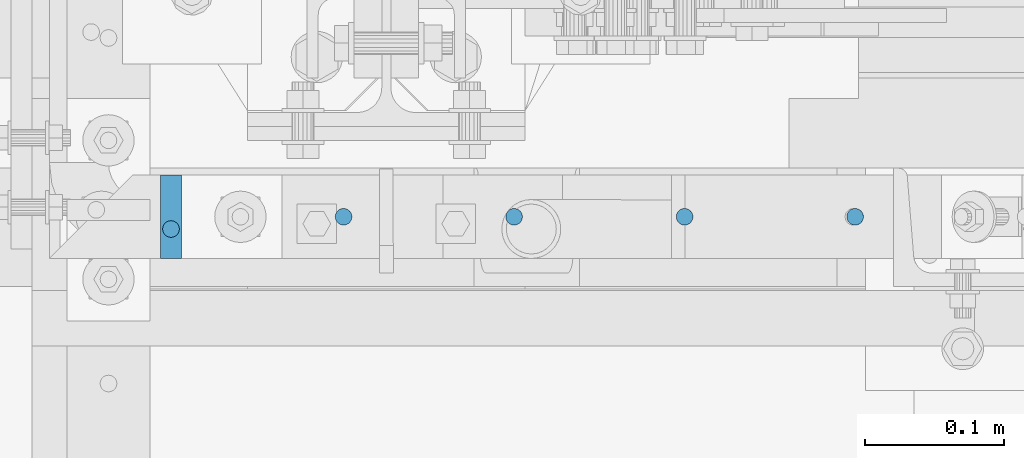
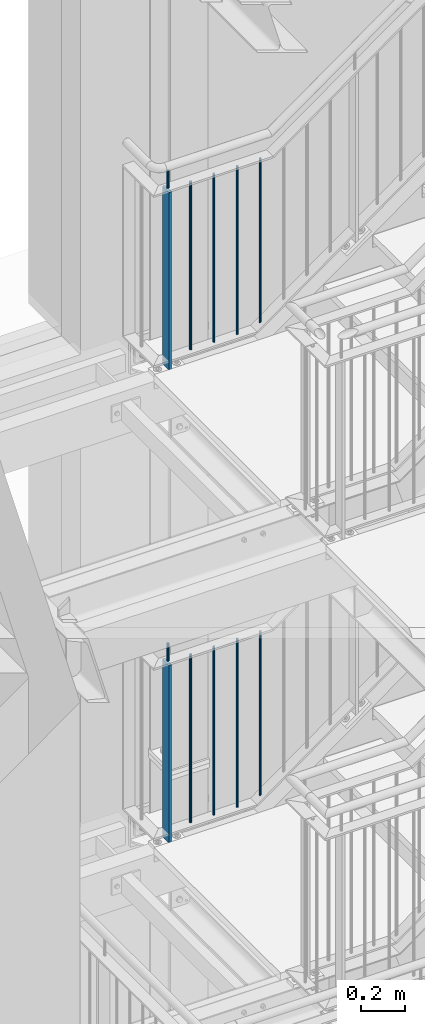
# One storey, part 71 of 821: 12 columns.
"""IFC2X3 building model written with IfcOpenShell, lengths in millimetres."""

import ifcopenshell
import ifcopenshell.guid

model = None  # the IFC model being written
_history = None  # IfcOwnerHistory: only IFC2X3 demands one
_inside = {}  # id of a spatial element -> (the spatial element, [elements in it])
_under = {}  # id of a project, library or spatial element -> (it, [spatial elements below it])
_declared = {}  # id of a project -> (the project, [libraries it declares])
_typed = {}  # id of a type object -> (the type object, [elements of that type])
_made_of = {}  # id of a material, layer set ... -> (it, [elements and type objects made of it])


def new_model(schema):
    """Start an empty IFC model of exactly this schema.

    Asked for "IFC4X3", IfcOpenShell would pick the latest addendum, in which some entities
    have other attributes; the version numbers below select the first issue.
    IFC2X3 requires an IfcOwnerHistory on every rooted entity: one is made here for all.
    """
    global model, _history
    if schema == "IFC4X3":
        model = ifcopenshell.file(schema_version=(4, 3, 0, 0))
    else:
        model = ifcopenshell.file(schema=schema)
    _inside.clear()
    _under.clear()
    _declared.clear()
    _typed.clear()
    _made_of.clear()
    _history = None
    if model.schema == "IFC2X3":
        org = make("IfcOrganization", Name="unknown")
        user = make(
            "IfcPersonAndOrganization",
            ThePerson=make("IfcPerson", FamilyName="unknown"),
            TheOrganization=org,
        )
        app = make(
            "IfcApplication",
            ApplicationDeveloper=org,
            Version="unknown",
            ApplicationFullName="unknown",
            ApplicationIdentifier="unknown",
        )
        _history = make(
            "IfcOwnerHistory",
            OwningUser=user,
            OwningApplication=app,
            ChangeAction="ADDED",
            CreationDate=0,
        )
    return model


def make(cls, **values):
    """One entity of the class cls with the attributes given. An attribute that is None is left unset."""
    return model.create_entity(
        cls, **{name: value for name, value in values.items() if value is not None}
    )


def entity(cls, *values):
    """Any entity or typed value of the class cls, its attributes in the order of the schema. None: left unset."""
    e = model.create_entity(cls)
    for i, value in enumerate(values):
        if value is not None:
            e[i] = value
    return e


def rooted(cls, **values):
    """An entity with a GlobalId (a new one), such as an element, a storey or a relation."""
    return make(cls, GlobalId=ifcopenshell.guid.new(), OwnerHistory=_history, **values)


def si_unit(unit_type, name, prefix=None):
    """IfcSIUnit, for example si_unit("LENGTHUNIT", "METRE", prefix="MILLI")."""
    return make("IfcSIUnit", UnitType=unit_type, Prefix=prefix, Name=name)


def converted_unit(unit_type, name, factor, base, dimensions=None, offset=None):
    """IfcConversionBasedUnit, such as the inch: factor (a typed value) times the base unit."""
    return make(
        "IfcConversionBasedUnit"
        if offset is None
        else "IfcConversionBasedUnitWithOffset",
        ConversionOffset=offset,
        Dimensions=None
        if dimensions is None
        else entity("IfcDimensionalExponents", *dimensions),
        UnitType=unit_type,
        Name=name,
        ConversionFactor=make(
            "IfcMeasureWithUnit", ValueComponent=factor, UnitComponent=base
        ),
    )


def assignment(units):
    """IfcUnitAssignment: the units of a project."""
    return None if units is None else make("IfcUnitAssignment", Units=units)


def point(xyz):
    """IfcCartesianPoint."""
    return None if xyz is None else make("IfcCartesianPoint", Coordinates=xyz)


def direction(xyz):
    """IfcDirection."""
    return None if xyz is None else make("IfcDirection", DirectionRatios=xyz)


def frame(location, z_axis=None, x_axis=None):
    """IfcAxis2Placement3D, a coordinate frame: its origin and axes. An axis left out is left unset."""
    return make(
        "IfcAxis2Placement3D",
        Location=point(location),
        Axis=direction(z_axis),
        RefDirection=direction(x_axis),
    )


def frame_2d(location, x_axis=None):
    """IfcAxis2Placement2D, a coordinate frame in the plane: its origin and x axis."""
    return make(
        "IfcAxis2Placement2D", Location=point(location), RefDirection=direction(x_axis)
    )


def origin():
    """The frame at (0, 0, 0) with its axes left unset."""
    return frame((0.0, 0.0, 0.0))


def origin_with_axes():
    """The frame at (0, 0, 0) with the z axis (0, 0, 1) and the x axis (1, 0, 0) written out."""
    return frame((0.0, 0.0, 0.0), z_axis=(0.0, 0.0, 1.0), x_axis=(1.0, 0.0, 0.0))


def origin_2d():
    """The frame at (0, 0) in the plane with its x axis left unset."""
    return frame_2d((0.0, 0.0))


def place(relative_to, where):
    """IfcLocalPlacement: puts the frame where relative to a parent placement (None: the world)."""
    return make(
        "IfcLocalPlacement", PlacementRelTo=relative_to, RelativePlacement=where
    )


def context(
    kind, dimensions, precision=None, world=None, true_north=None, identifier=None
):
    """IfcGeometricRepresentationContext, for example the 3D "Model" context."""
    return make(
        "IfcGeometricRepresentationContext",
        ContextIdentifier=identifier,
        ContextType=kind,
        CoordinateSpaceDimension=dimensions,
        Precision=precision,
        WorldCoordinateSystem=world,
        TrueNorth=true_north,
    )


def project(units=None, contexts=None):
    """IfcProject with its units and contexts."""
    return rooted(
        "IfcProject",
        Name="project",
        RepresentationContexts=contexts,
        UnitsInContext=assignment(units),
    )


def spatial(cls, under=None, at=None, **own):
    """A site, building, storey or space (cls), placed at a placement, below another one or the project."""
    s = rooted(cls, ObjectPlacement=at, **own)
    if under is not None:
        _under.setdefault(under.id(), (under, []))[1].append(s)
    return s


def profile(cls, at=None, kind="AREA", **sizes):
    """A parametric profile (cls). Its sizes go by their IFC names, for example OverallWidth=200.0."""
    return make(cls, ProfileType=kind, Position=at, **sizes)


def rectangle(**sizes):
    """IfcRectangleProfileDef."""
    return profile("IfcRectangleProfileDef", **sizes)


def circle(**sizes):
    """IfcCircleProfileDef."""
    return profile("IfcCircleProfileDef", **sizes)


def extrude(swept, where, along, depth):
    """IfcExtrudedAreaSolid: the profile swept, set in the frame where, extruded along a direction by depth."""
    return make(
        "IfcExtrudedAreaSolid",
        SweptArea=swept,
        Position=where,
        ExtrudedDirection=direction(along),
        Depth=depth,
    )


def clip(a, b, op="DIFFERENCE"):
    """IfcBooleanClippingResult: the solid a cut by the half space b."""
    return make(
        "IfcBooleanClippingResult", Operator=op, FirstOperand=a, SecondOperand=b
    )


def halfspace(plane, agree):
    """IfcHalfSpaceSolid: all space on one side of the plane z = 0 of the frame plane."""
    return make(
        "IfcHalfSpaceSolid",
        BaseSurface=make("IfcPlane", Position=plane),
        AgreementFlag=agree,
    )


def shape(context_of_items, identifier, shape_type, items):
    """IfcShapeRepresentation: the items that make up one representation, for example the "Body"."""
    return make(
        "IfcShapeRepresentation",
        ContextOfItems=context_of_items,
        RepresentationIdentifier=identifier,
        RepresentationType=shape_type,
        Items=items,
    )


def material(Name=None, Category=None):
    """IfcMaterial."""
    return make("IfcMaterial", Name=Name, Category=Category)


def made_of(thing, what):
    """Note that an element or type object is made of a material, layer set ...; save() writes the relation."""
    if what is not None:
        _made_of.setdefault(what.id(), (what, []))[1].append(thing)
    return thing


def element(
    cls,
    number,
    at=None,
    inside=None,
    cuts=None,
    type_object=None,
    material=None,
    context=None,
    identifier="Body",
    shape_type=None,
    held_by="IfcProductDefinitionShape",
    body=None,
    shapes=None,
    **own,
):
    """One element of the class cls, such as IfcWall. Its Tag is "e" and its number.

    at: its placement. inside: the storey or other place that contains it. cuts: it is an
    opening in that element (IfcRelVoidsElement). A single representation is given by context,
    identifier, shape_type and body (its items); several are given by shapes. held_by: the class
    of the entity that holds the representations. save() writes the other relations.
    """
    e = rooted(cls, Tag="e%d" % number, ObjectPlacement=at, **own)
    if body is not None:
        shapes = [shape(context, identifier, shape_type, body)]
    if shapes is not None:
        e.Representation = make(held_by, Representations=shapes)
    if inside is not None:
        _inside.setdefault(inside.id(), (inside, []))[1].append(e)
    if cuts is not None:
        rooted(
            "IfcRelVoidsElement", RelatingBuildingElement=cuts, RelatedOpeningElement=e
        )
    if type_object is not None:
        _typed.setdefault(type_object.id(), (type_object, []))[1].append(e)
    return made_of(e, material)


def aggregate(whole, parts):
    """IfcRelAggregates: a whole, such as a stair, and the parts it consists of."""
    return rooted("IfcRelAggregates", RelatingObject=whole, RelatedObjects=parts)


def save(model, path):
    """Write the relations noted so far, then the file.

    IfcRelAggregates (storeys below a building ...), IfcRelContainedInSpatialStructure (elements
    in a storey), IfcRelDefinesByType, IfcRelAssociatesMaterial and IfcRelDeclares: one each for
    every whole, place, type object, material and project.
    """
    for whole, parts in _under.values():
        aggregate(whole, parts)
    for where, things in _inside.values():
        rooted(
            "IfcRelContainedInSpatialStructure",
            RelatedElements=things,
            RelatingStructure=where,
        )
    for kind, things in _typed.values():
        rooted("IfcRelDefinesByType", RelatedObjects=things, RelatingType=kind)
    for what, things in _made_of.values():
        rooted("IfcRelAssociatesMaterial", RelatedObjects=things, RelatingMaterial=what)
    for by, libraries in _declared.values():
        rooted("IfcRelDeclares", RelatingContext=by, RelatedDefinitions=libraries)
    model.write(path)


model = new_model("IFC2X3")

# Units and contexts
model_context = context("Model", 3, precision=1e-09, world=origin_with_axes())
ifc_project = project(units=[si_unit("LENGTHUNIT", "METRE", prefix="MILLI"), si_unit("AREAUNIT", "SQUARE_METRE"), si_unit("VOLUMEUNIT", "CUBIC_METRE"), converted_unit("PLANEANGLEUNIT", "DEGREE", entity("IfcPlaneAngleMeasure", 0.01745329), si_unit("PLANEANGLEUNIT", "RADIAN"), dimensions=[0, 0, 0, 0, 0, 0, 0])], contexts=[model_context])

# Site, building, storey
site_placement = place(None, origin_with_axes())
site = spatial("IfcSite", under=ifc_project, at=site_placement, Name="Cnopf'sche Kinderklinik", CompositionType="ELEMENT")
building_placement = place(site_placement, origin_with_axes())
building = spatial("IfcBuilding", under=site, at=building_placement, Name="Struktur 1", CompositionType="ELEMENT")
storey_placement = place(building_placement, origin_with_axes())
storey = spatial("IfcBuildingStorey", under=building, at=storey_placement, Name="Default Storey", CompositionType="ELEMENT", Elevation=0.0)

# Columns
ifc_material = material(Name="S235JR")
column_1_placement = place(None, frame((4701.713402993, 7356.736971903, 13618.723292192), z_axis=(0.0, 0.0, 1.0), x_axis=(1.0, 0.0, 0.0)))
element("IfcColumn", 1, at=column_1_placement, inside=storey, material=ifc_material, Name="Railing_Post_Landing#0", ObjectType="Railing_Post_Landing#0", context=model_context, shape_type="Clipping", body=[
    clip(clip(extrude(rectangle(XDim=15.0, YDim=60.0, at=origin_2d()), origin(), (0.0, 0.0, -1.0), 1070.646584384), halfspace(frame((-4701.713402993, -7356.736971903, -1019.722292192), z_axis=(0.0, 0.0, 1.0), x_axis=(1.0, 0.0, 0.0)), True)), halfspace(frame((-4701.713402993, -7356.736971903, -30.924292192), z_axis=(0.0, 0.0, -1.0), x_axis=(-1.0, 0.0, 0.0)), True)),
])
column_2_placement = place(None, frame((4825.963402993, 7356.736971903, 13601.285281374), z_axis=(0.0, 0.0, 1.0), x_axis=(1.0, 0.0, 0.0)))
element("IfcColumn", 2, at=column_2_placement, inside=storey, material=ifc_material, Name="Railing_Picket_Landing#0", ObjectType="Railing_Picket_Landing#0", context=model_context, shape_type="Clipping", body=[
    clip(clip(extrude(circle(Radius=6.0, at=origin_2d()), origin(), (0.0, 0.0, -1.0), 965.770562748), halfspace(frame((-4825.963402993, -7356.736971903, -13.486281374), z_axis=(0.0, 0.0, -1.0), x_axis=(-1.0, 0.0, 0.0)), True)), halfspace(frame((-4825.963402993, -7356.736971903, -952.284281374), z_axis=(0.0, 0.0, 1.0), x_axis=(1.0, 0.0, 0.0)), True)),
])
column_3_placement = place(None, frame((4948.713426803, 7356.736971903, 13601.285281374), z_axis=(0.0, 0.0, 1.0), x_axis=(1.0, 0.0, 0.0)))
element("IfcColumn", 3, at=column_3_placement, inside=storey, material=ifc_material, Name="Railing_Picket_Landing#1", ObjectType="Railing_Picket_Landing#1", context=model_context, shape_type="Clipping", body=[
    clip(clip(extrude(circle(Radius=6.0, at=origin_2d()), origin(), (0.0, 0.0, -1.0), 965.770562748), halfspace(frame((-4948.713426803, -7356.736971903, -13.486281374), z_axis=(0.0, 0.0, -1.0), x_axis=(-1.0, 0.0, 0.0)), True)), halfspace(frame((-4948.713426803, -7356.736971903, -952.284281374), z_axis=(0.0, 0.0, 1.0), x_axis=(1.0, 0.0, 0.0)), True)),
])
column_4_placement = place(None, frame((5071.463450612, 7356.736971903, 13601.285281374), z_axis=(0.0, 0.0, 1.0), x_axis=(1.0, 0.0, 0.0)))
element("IfcColumn", 4, at=column_4_placement, inside=storey, material=ifc_material, Name="Railing_Picket_Landing#2", ObjectType="Railing_Picket_Landing#2", context=model_context, shape_type="Clipping", body=[
    clip(clip(extrude(circle(Radius=6.0, at=origin_2d()), origin(), (0.0, 0.0, -1.0), 965.770562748), halfspace(frame((-5071.463450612, -7356.736971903, -13.486281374), z_axis=(0.0, 0.0, -1.0), x_axis=(-1.0, 0.0, 0.0)), True)), halfspace(frame((-5071.463450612, -7356.736971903, -952.284281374), z_axis=(0.0, 0.0, 1.0), x_axis=(1.0, 0.0, 0.0)), True)),
])
column_5_placement = place(None, frame((5194.213474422, 7356.736971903, 13587.8), z_axis=(0.0, 0.0, 1.0), x_axis=(1.0, 0.0, 0.0)))
element("IfcColumn", 5, at=column_5_placement, inside=storey, material=ifc_material, Name="Railing_Picket_Stair#3", ObjectType="Railing_Picket_Stair#3", context=model_context, shape_type="Clipping", body=[
    clip(extrude(circle(Radius=6.0, at=origin_2d()), origin(), (0.0, 0.0, -1.0), 923.624764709), halfspace(frame((-9428.542322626, -7356.736971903, -7738.480453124), z_axis=(-0.586383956, 0.0, 0.810033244), x_axis=(0.0, -1.0, 0.0)), True)),
])
column_6_placement = place(None, frame((4701.713402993, 7347.936971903, 13706.285281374), z_axis=(0.0, 0.0, 1.0), x_axis=(0.0, -1.0, 0.0)))
element("IfcColumn", 6, at=column_6_placement, inside=storey, material=ifc_material, Name="Bar#0", ObjectType="Bar#0", context=model_context, shape_type="Clipping", body=[
    clip(clip(extrude(circle(Radius=6.0, at=origin_2d()), origin(), (0.0, 0.0, -1.0), 116.970562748), halfspace(frame((7347.936971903, -4701.713402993, -8.486281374), z_axis=(0.0, 0.0, -1.0), x_axis=(0.0, -1.0, 0.0)), True)), halfspace(frame((7347.936971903, -4701.713402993, -108.484281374), z_axis=(0.0, 0.0, 1.0), x_axis=(0.0, 1.0, 0.0)), True)),
])
column_7_placement = place(None, frame((4701.713402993, 7356.736971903, 16253.723292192), z_axis=(0.0, 0.0, 1.0), x_axis=(1.0, 0.0, 0.0)))
element("IfcColumn", 7, at=column_7_placement, inside=storey, material=ifc_material, Name="Railing_Post_Landing#0", ObjectType="Railing_Post_Landing#0", context=model_context, shape_type="Clipping", body=[
    clip(clip(extrude(rectangle(XDim=15.0, YDim=60.0, at=origin_2d()), origin(), (0.0, 0.0, -1.0), 1070.646584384), halfspace(frame((-4701.713402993, -7356.736971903, -1019.722292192), z_axis=(0.0, 0.0, 1.0), x_axis=(1.0, 0.0, 0.0)), True)), halfspace(frame((-4701.713402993, -7356.736971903, -30.924292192), z_axis=(0.0, 0.0, -1.0), x_axis=(-1.0, 0.0, 0.0)), True)),
])
column_8_placement = place(None, frame((4825.963402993, 7356.736971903, 16236.285281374), z_axis=(0.0, 0.0, 1.0), x_axis=(1.0, 0.0, 0.0)))
element("IfcColumn", 8, at=column_8_placement, inside=storey, material=ifc_material, Name="Railing_Picket_Landing#0", ObjectType="Railing_Picket_Landing#0", context=model_context, shape_type="Clipping", body=[
    clip(clip(extrude(circle(Radius=6.0, at=origin_2d()), origin(), (0.0, 0.0, -1.0), 965.770562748), halfspace(frame((-4825.963402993, -7356.736971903, -13.486281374), z_axis=(0.0, 0.0, -1.0), x_axis=(-1.0, 0.0, 0.0)), True)), halfspace(frame((-4825.963402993, -7356.736971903, -952.284281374), z_axis=(0.0, 0.0, 1.0), x_axis=(1.0, 0.0, 0.0)), True)),
])
column_9_placement = place(None, frame((4948.713426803, 7356.736971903, 16236.285281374), z_axis=(0.0, 0.0, 1.0), x_axis=(1.0, 0.0, 0.0)))
element("IfcColumn", 9, at=column_9_placement, inside=storey, material=ifc_material, Name="Railing_Picket_Landing#1", ObjectType="Railing_Picket_Landing#1", context=model_context, shape_type="Clipping", body=[
    clip(clip(extrude(circle(Radius=6.0, at=origin_2d()), origin(), (0.0, 0.0, -1.0), 965.770562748), halfspace(frame((-4948.713426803, -7356.736971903, -13.486281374), z_axis=(0.0, 0.0, -1.0), x_axis=(-1.0, 0.0, 0.0)), True)), halfspace(frame((-4948.713426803, -7356.736971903, -952.284281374), z_axis=(0.0, 0.0, 1.0), x_axis=(1.0, 0.0, 0.0)), True)),
])
column_10_placement = place(None, frame((5071.463450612, 7356.736971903, 16236.285281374), z_axis=(0.0, 0.0, 1.0), x_axis=(1.0, 0.0, 0.0)))
element("IfcColumn", 10, at=column_10_placement, inside=storey, material=ifc_material, Name="Railing_Picket_Landing#2", ObjectType="Railing_Picket_Landing#2", context=model_context, shape_type="Clipping", body=[
    clip(clip(extrude(circle(Radius=6.0, at=origin_2d()), origin(), (0.0, 0.0, -1.0), 965.770562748), halfspace(frame((-5071.463450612, -7356.736971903, -13.486281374), z_axis=(0.0, 0.0, -1.0), x_axis=(-1.0, 0.0, 0.0)), True)), halfspace(frame((-5071.463450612, -7356.736971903, -952.284281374), z_axis=(0.0, 0.0, 1.0), x_axis=(1.0, 0.0, 0.0)), True)),
])
column_11_placement = place(None, frame((5194.213474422, 7356.736971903, 16222.8), z_axis=(0.0, 0.0, 1.0), x_axis=(1.0, 0.0, 0.0)))
element("IfcColumn", 11, at=column_11_placement, inside=storey, material=ifc_material, Name="Railing_Picket_Stair#3", ObjectType="Railing_Picket_Stair#3", context=model_context, shape_type="Clipping", body=[
    clip(extrude(circle(Radius=6.0, at=origin_2d()), origin(), (0.0, 0.0, -1.0), 923.59799472), halfspace(frame((-10680.441346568, -7356.736971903, -8600.712420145), z_axis=(-0.584187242, 0.0, 0.811618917), x_axis=(0.0, -1.0, 0.0)), True)),
])
column_12_placement = place(None, frame((4701.713402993, 7347.936971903, 16341.285281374), z_axis=(0.0, 0.0, 1.0), x_axis=(0.0, -1.0, 0.0)))
element("IfcColumn", 12, at=column_12_placement, inside=storey, material=ifc_material, Name="Bar#0", ObjectType="Bar#0", context=model_context, shape_type="Clipping", body=[
    clip(clip(extrude(circle(Radius=6.0, at=origin_2d()), origin(), (0.0, 0.0, -1.0), 116.970562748), halfspace(frame((7347.936971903, -4701.713402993, -8.486281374), z_axis=(0.0, 0.0, -1.0), x_axis=(0.0, -1.0, 0.0)), True)), halfspace(frame((7347.936971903, -4701.713402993, -108.484281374), z_axis=(0.0, 0.0, 1.0), x_axis=(0.0, 1.0, 0.0)), True)),
])

save(model, "model.ifc")
